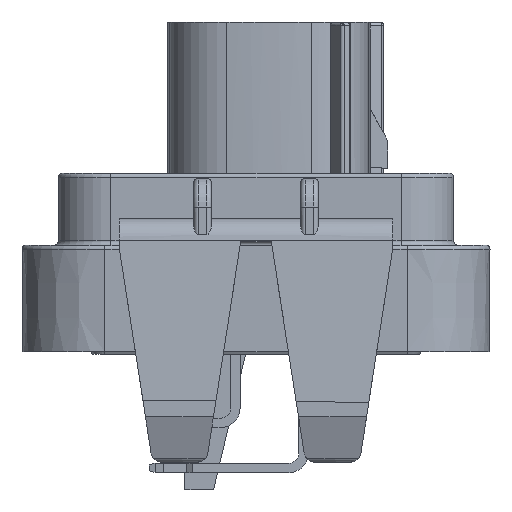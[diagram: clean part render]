
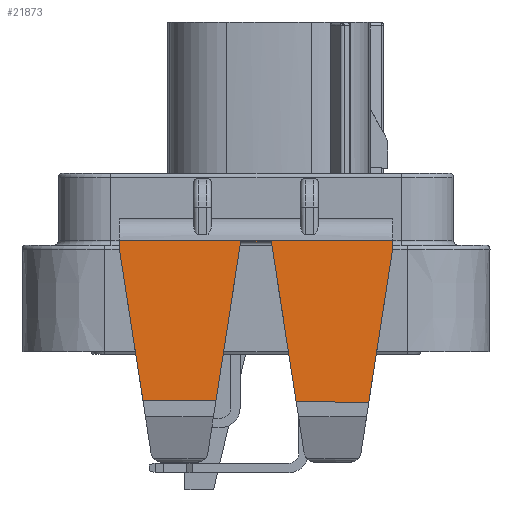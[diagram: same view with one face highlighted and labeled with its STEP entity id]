
A CAD part, left-side view. The second image highlights one B-rep face of the part: STEP entity #21873.
In plain terms, the highlighted planar face has unit normal (-0.998, 0, 0.056) as drawn and (0.998, 0, 0.056) by its records, which use the part's own axes.
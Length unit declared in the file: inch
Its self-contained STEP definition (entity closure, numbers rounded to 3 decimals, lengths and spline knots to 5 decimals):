
#1284=DIRECTION('',(0.056,0.,-0.998));
#1285=VECTOR('',#1284,0.03151);
#1286=CARTESIAN_POINT('',(2.39958,0.475,0.01647));
#1287=LINE('',#1286,#1285);
#1418=DIRECTION('',(0.056,0.,-0.998));
#1419=VECTOR('',#1418,0.03151);
#1420=CARTESIAN_POINT('',(2.39958,-0.475,0.01647));
#1421=LINE('',#1420,#1419);
#1765=DIRECTION('',(0.055,0.153,-0.987));
#1766=VECTOR('',#1765,0.56623);
#1767=CARTESIAN_POINT('',(2.39983,0.0533,0.012));
#1768=LINE('',#1767,#1766);
#1784=DIRECTION('',(0.,-1.,0.));
#1785=VECTOR('',#1784,0.10661);
#1786=CARTESIAN_POINT('',(2.39983,0.0533,0.012));
#1787=LINE('',#1786,#1785);
#1788=DIRECTION('',(0.,-1.,0.009));
#1789=VECTOR('',#1788,0.25338);
#1790=CARTESIAN_POINT('',(2.43092,-0.13974,
-0.54418));
#1791=LINE('',#1790,#1789);
#1792=DIRECTION('',(-0.055,-0.153,0.987));
#1793=VECTOR('',#1792,0.53408);
#1794=CARTESIAN_POINT('',(2.4308,-0.39311,
-0.54194));
#1795=LINE('',#1794,#1793);
#1796=DIRECTION('',(0.,1.,0.));
#1797=VECTOR('',#1796,0.95);
#1798=CARTESIAN_POINT('',(2.39958,-0.475,0.01647));
#1799=LINE('',#1798,#1797);
#1800=DIRECTION('',(-0.055,0.153,0.987));
#1801=VECTOR('',#1800,0.54112);
#1802=CARTESIAN_POINT('',(2.43119,0.39203,
-0.54889));
#1803=LINE('',#1802,#1801);
#1804=DIRECTION('',(0.,-1.,0.009));
#1805=VECTOR('',#1804,0.25192);
#1806=CARTESIAN_POINT('',(2.43119,0.39203,
-0.54889));
#1807=LINE('',#1806,#1805);
#1820=DIRECTION('',(-0.055,0.153,0.987));
#1821=VECTOR('',#1820,0.56372);
#1822=CARTESIAN_POINT('',(2.43092,-0.13974,
-0.54418));
#1823=LINE('',#1822,#1821);
#15235=CARTESIAN_POINT('',(2.39958,-0.475,0.01647));
#15237=VERTEX_POINT('',#15235);
#15239=CARTESIAN_POINT('',(2.39958,0.475,0.01647));
#15241=VERTEX_POINT('',#15239);
#15302=CARTESIAN_POINT('',(2.40134,-0.475,-0.015));
#15304=VERTEX_POINT('',#15302);
#15306=CARTESIAN_POINT('',(2.40134,0.475,-0.015));
#15308=VERTEX_POINT('',#15306);
#15310=CARTESIAN_POINT('',(2.39983,0.0533,0.012));
#15311=CARTESIAN_POINT('',(2.39983,-0.0533,0.012));
#15312=VERTEX_POINT('',#15310);
#15313=VERTEX_POINT('',#15311);
#15314=CARTESIAN_POINT('',(2.4308,-0.39311,
-0.54194));
#15315=VERTEX_POINT('',#15314);
#15316=CARTESIAN_POINT('',(2.43119,0.39203,
-0.54889));
#15317=VERTEX_POINT('',#15316);
#18750=CARTESIAN_POINT('',(2.43106,0.14012,
-0.54666));
#18751=VERTEX_POINT('',#18750);
#18752=CARTESIAN_POINT('',(2.43092,-0.13974,
-0.54418));
#18753=VERTEX_POINT('',#18752);
#21852=CARTESIAN_POINT('',(2.39958,-0.475,0.01647));
#21853=DIRECTION('',(0.998,0.,0.056));
#21854=DIRECTION('',(0.056,0.,-0.998));
#21855=AXIS2_PLACEMENT_3D('',#21852,#21853,#21854);
#21856=PLANE('',#21855);
#21857=ORIENTED_EDGE('',*,*,#21824,.F.);
#21858=ORIENTED_EDGE('',*,*,#21611,.T.);
#21860=ORIENTED_EDGE('',*,*,#21859,.F.);
#21862=ORIENTED_EDGE('',*,*,#21861,.T.);
#21863=ORIENTED_EDGE('',*,*,#21682,.T.);
#21864=ORIENTED_EDGE('',*,*,#21391,.F.);
#21865=ORIENTED_EDGE('',*,*,#21035,.T.);
#21866=ORIENTED_EDGE('',*,*,#21270,.T.);
#21868=ORIENTED_EDGE('',*,*,#21867,.F.);
#21870=ORIENTED_EDGE('',*,*,#21869,.T.);
#21871=EDGE_LOOP('',(#21857,#21858,#21860,#21862,#21863,#21864,#21865,#21866,
#21868,#21870));
#21872=FACE_OUTER_BOUND('',#21871,.F.);
#21873=ADVANCED_FACE('',(#21872),#21856,.T.);
#21035=EDGE_CURVE('',#15237,#15241,#1799,.T.);
#21270=EDGE_CURVE('',#15241,#15308,#1287,.T.);
#21391=EDGE_CURVE('',#15237,#15304,#1421,.T.);
#21611=EDGE_CURVE('',#15312,#15313,#1787,.T.);
#21682=EDGE_CURVE('',#15315,#15304,#1795,.T.);
#21824=EDGE_CURVE('',#15312,#18751,#1768,.T.);
#21859=EDGE_CURVE('',#18753,#15313,#1823,.T.);
#21861=EDGE_CURVE('',#18753,#15315,#1791,.T.);
#21867=EDGE_CURVE('',#15317,#15308,#1803,.T.);
#21869=EDGE_CURVE('',#15317,#18751,#1807,.T.);
